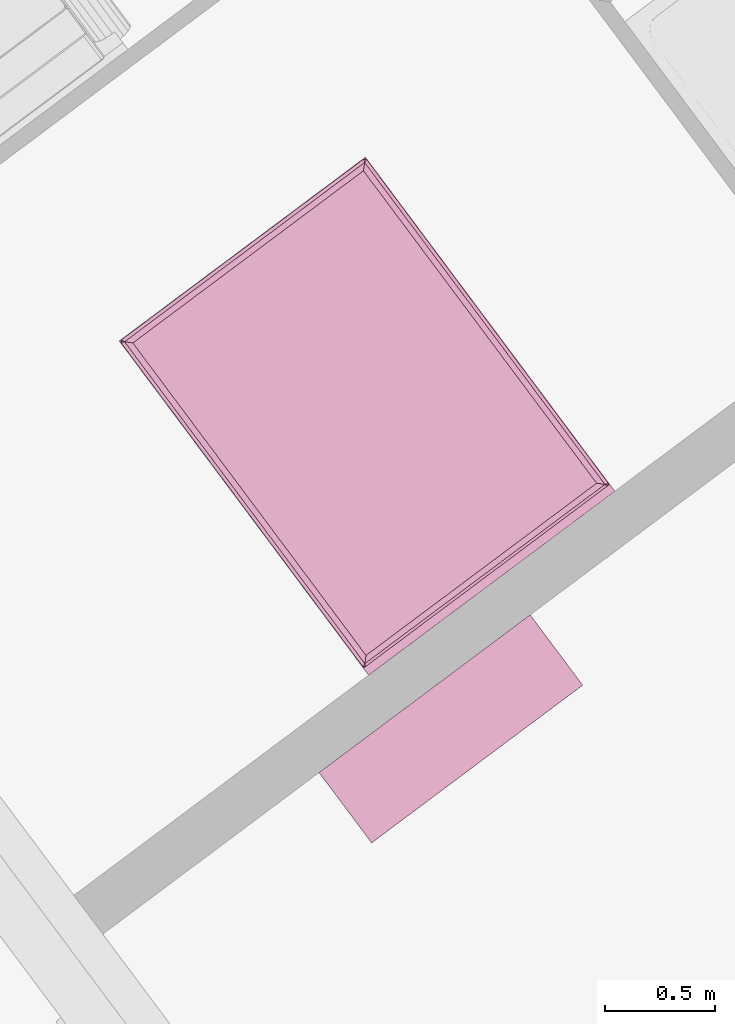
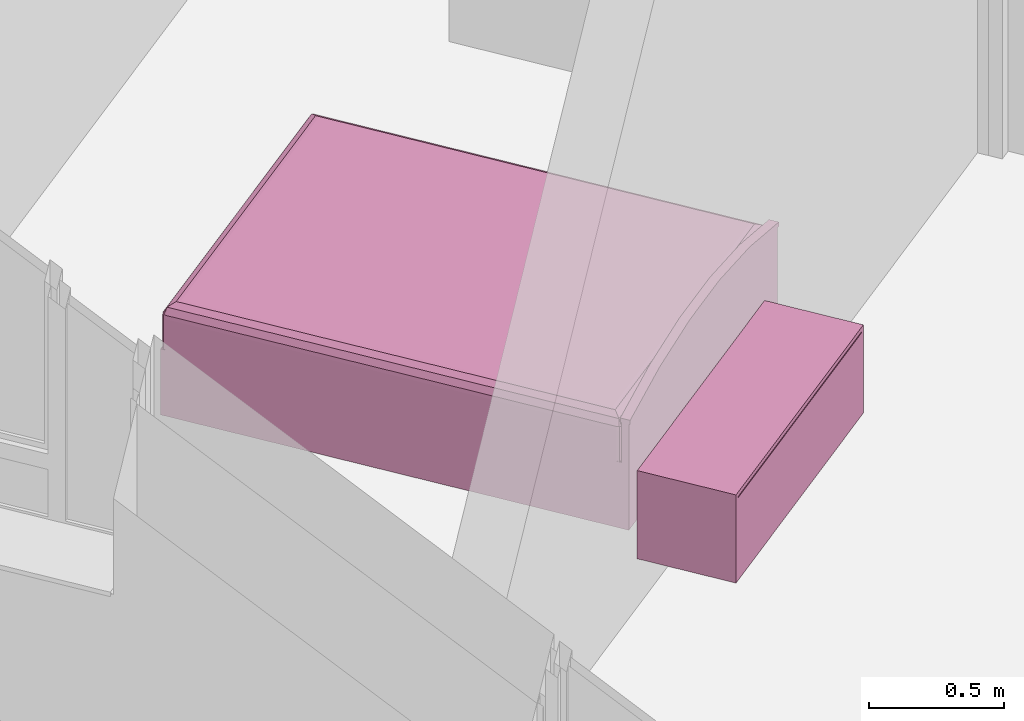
# One storey, part 95 of 121: 2 furnishings.
"""IFC2X3 building model written with IfcOpenShell, lengths in metres."""

from ifc_helpers import new_model, entity, si_unit, converted_unit, derived_unit, money_unit, direction, frame, origin_with_axes, place, context, subcontext, project, spatial, open_shell, faceted_brep, surface_model, source, transform, mapped, type_object, element, save


model = new_model("IFC2X3")

# Units and contexts
model_context = context("Model", 3, precision=1e-05, world=origin_with_axes(), true_north=direction((0.0, 1.0)))
body_context = subcontext(model_context, "Body", "Model", "MODEL_VIEW")
ifc_project = project(units=[si_unit("LENGTHUNIT", "METRE"), si_unit("AREAUNIT", "SQUARE_METRE"), si_unit("VOLUMEUNIT", "CUBIC_METRE"), converted_unit("PLANEANGLEUNIT", "DEGREE", entity("IfcPlaneAngleMeasure", 0.0174532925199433), si_unit("PLANEANGLEUNIT", "RADIAN"), dimensions=[0, 0, 0, 0, 0, 0, 0]), money_unit("CHF"), converted_unit("TIMEUNIT", "Year", entity("IfcTimeMeasure", 31557600.0), si_unit("TIMEUNIT", "SECOND"), dimensions=[0, 0, 1, 0, 0, 0, 0]), si_unit("MASSUNIT", "GRAM", prefix="KILO"), si_unit("THERMODYNAMICTEMPERATUREUNIT", "DEGREE_CELSIUS"), si_unit("LUMINOUSINTENSITYUNIT", "LUMEN"), si_unit("ENERGYUNIT", "JOULE", prefix="MEGA"), derived_unit("THERMALCONDUCTANCEUNIT", [(si_unit("POWERUNIT", "WATT"), 1), (si_unit("LENGTHUNIT", "METRE"), -1), (si_unit("THERMODYNAMICTEMPERATUREUNIT", "KELVIN"), -1)]), derived_unit("SPECIFICHEATCAPACITYUNIT", [(si_unit("ENERGYUNIT", "JOULE"), 1), (si_unit("MASSUNIT", "GRAM", prefix="KILO"), -1), (si_unit("THERMODYNAMICTEMPERATUREUNIT", "KELVIN"), -1)]), derived_unit("MASSDENSITYUNIT", [(si_unit("MASSUNIT", "GRAM", prefix="KILO"), 1), (si_unit("VOLUMEUNIT", "CUBIC_METRE"), -1)])], contexts=[model_context])

# Site, building, storey
site_placement = place(None, origin_with_axes())
site = spatial("IfcSite", under=ifc_project, at=site_placement, Name="Site", CompositionType="ELEMENT")
building_placement = place(site_placement, origin_with_axes())
building = spatial("IfcBuilding", under=site, at=building_placement, Name="Bâtiment", CompositionType="ELEMENT")
storey_placement = place(building_placement, frame((0.0, 0.0, 2.75), z_axis=(0.0, 0.0, 1.0), x_axis=(1.0, 0.0, 0.0)))
storey = spatial("IfcBuildingStorey", under=building, at=storey_placement, Name="Etage 1", CompositionType="ELEMENT", Elevation=2.75)

# Furnishings
furnishing_element_type_1 = type_object("IfcFurnishingElementType", Name="Meuble à plans 27")
shared_shape_1 = source(origin_with_axes(), body_context, "Body", "SurfaceModel", [
    surface_model("IfcShellBasedSurfaceModel", [(-1.18, 0.02, 0.0), (-1.18, 0.4, 0.0), (-0.02, 0.4, 0.0), (-0.02, 0.02, 0.0)], [open_shell([[[0, 1, 2, 3]]])]),
    faceted_brep([(0.0, 0.4, 0.0), (0.0, 0.0, 0.0), (-1.2, 0.0, 0.0), (-1.2, 0.4, 0.0), (0.0, 0.4, 0.4), (0.0, 0.0, 0.4), (-1.2, 0.0, 0.4), (-0.02, 0.0, 0.02), (-1.18, 0.0, 0.02), (-1.18, 0.0, 0.38), (-0.02, 0.0, 0.38), (-1.2, 0.4, 0.4), (-0.02, 0.4, 0.01999999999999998), (-0.02, 0.4, 0.38), (-1.18, 0.4, 0.38), (-1.18, 0.4, 0.01999999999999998)], [[[0, 1, 2, 3]], [[4, 5, 1, 0]], [[1, 5, 6, 2], [7, 8, 9, 10]], [[3, 2, 6, 11]], [[0, 3, 11, 4], [12, 13, 14, 15]], [[11, 6, 5, 4]], [[15, 8, 7, 12]], [[14, 9, 8, 15]], [[13, 10, 9, 14]], [[12, 7, 10, 13]]]),
    faceted_brep([(-1.18, 0.4, 0.01999999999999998), (-1.18, 0.4, 0.38), (-0.02, 0.4, 0.38), (-0.02, 0.4, 0.01999999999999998), (-1.18, 0.38, 0.01999999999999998), (-1.18, 0.3800000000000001, 0.38), (-0.02, 0.3800000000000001, 0.38), (-0.02, 0.38, 0.01999999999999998)], [[[0, 1, 2, 3]], [[0, 4, 5, 1]], [[1, 5, 6, 2]], [[2, 6, 7, 3]], [[3, 7, 4, 0]], [[7, 6, 5, 4]]]),
    faceted_brep([(-1.18, 0.0, 0.02), (-1.18, 0.38, 0.02), (-0.02, 0.38, 0.02), (-0.02, 0.0, 0.02), (-1.18, 0.0, 0.3750000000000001), (-1.18, 0.38, 0.3750000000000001), (-0.02, 0.38, 0.3750000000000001), (-0.02, 0.0, 0.3750000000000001)], [[[0, 1, 2, 3]], [[0, 4, 5, 1]], [[1, 5, 6, 2]], [[2, 6, 7, 3]], [[3, 7, 4, 0]], [[7, 6, 5, 4]]]),
])
furnishing_1_placement = place(storey_placement, frame((9534.874061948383, -1080.804691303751, 57.92018680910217), z_axis=(0.0, 0.0, 1.0), x_axis=(0.8011628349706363, 0.5984464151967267, 0.0)))
element("IfcFurnishingElement", 1, at=furnishing_1_placement, inside=storey, type_object=furnishing_element_type_1, Name="Obj.-376", context=body_context, shape_type="MappedRepresentation", body=[
    mapped(shared_shape_1, transform((0.0, 0.0, 0.0))),
])
furnishing_element_type_2 = type_object("IfcFurnishingElementType", Name="Lit double 01")
shared_shape_2 = source(origin_with_axes(), body_context, "Body", "Brep", [
    faceted_brep([(0.0, 1.895, 0.0), (0.0, 1.865, 0.0), (-1.4, 1.865, 0.0), (-1.4, 1.895, 0.0), (0.0, 1.895, 0.48), (0.0, 1.865, 0.48), (-0.276362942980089, 1.865, 0.5438448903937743), (-0.558179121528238, 1.865, 0.5759741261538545), (-0.8418208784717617, 1.865, 0.5759741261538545), (-1.123637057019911, 1.865, 0.5438448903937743), (-1.4, 1.865, 0.48), (-1.4, 1.865, 0.4799), (-1.4, 1.895, 0.4799), (-1.4, 1.895, 0.48), (-1.123637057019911, 1.895, 0.5438448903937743), (-0.8418208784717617, 1.895, 0.5759741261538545), (-0.558179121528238, 1.895, 0.5759741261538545), (-0.276362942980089, 1.895, 0.5438448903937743)], [[[0, 1, 2, 3]], [[4, 5, 1, 0]], [[1, 5, 6, 7, 8, 9, 10, 11, 2]], [[3, 2, 11, 12]], [[0, 3, 12, 13, 14, 15, 16, 17, 4]], [[17, 6, 5, 4]], [[16, 7, 6, 17]], [[15, 8, 7, 16]], [[14, 9, 8, 15]], [[13, 10, 9, 14]], [[12, 11, 10, 13]]]),
    faceted_brep([(-1.4, 1.9, 0.48), (-1.4, 1.86, 0.48), (-1.399999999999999, 1.86, 0.4999999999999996), (-1.399999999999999, 1.9, 0.4999999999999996), (-1.123637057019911, 1.9, 0.5438448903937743), (-1.123637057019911, 1.86, 0.5438448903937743), (-0.8418208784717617, 1.86, 0.5759741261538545), (-0.558179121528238, 1.86, 0.5759741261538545), (-0.276362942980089, 1.86, 0.5438448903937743), (0.0, 1.86, 0.48), (0.0, 1.86, 0.4999), (0.0, 1.86, 0.5), (-0.276362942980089, 1.86, 0.5638448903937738), (-0.5581791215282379, 1.86, 0.5959741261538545), (-0.8418208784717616, 1.86, 0.5959741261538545), (-1.123637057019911, 1.86, 0.5638448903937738), (-1.123637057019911, 1.9, 0.5638448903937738), (-0.8418208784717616, 1.9, 0.5959741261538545), (-0.5581791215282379, 1.9, 0.5959741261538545), (-0.276362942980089, 1.9, 0.5638448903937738), (0.0, 1.9, 0.5), (0.0, 1.9, 0.4999), (0.0, 1.9, 0.48), (-0.276362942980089, 1.9, 0.5438448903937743), (-0.558179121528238, 1.9, 0.5759741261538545), (-0.8418208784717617, 1.9, 0.5759741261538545)], [[[0, 1, 2, 3]], [[4, 5, 1, 0]], [[1, 5, 6, 7, 8, 9, 10, 11, 12, 13, 14, 15, 2]], [[3, 2, 15, 16]], [[0, 3, 16, 17, 18, 19, 20, 21, 22, 23, 24, 25, 4]], [[25, 6, 5, 4]], [[24, 7, 6, 25]], [[23, 8, 7, 24]], [[22, 9, 8, 23]], [[21, 10, 9, 22]], [[20, 11, 10, 21]], [[19, 12, 11, 20]], [[18, 13, 12, 19]], [[17, 14, 13, 18]], [[16, 15, 14, 17]]]),
    faceted_brep([(-1.4, 0.0, 0.0), (-1.4, 1.865, 0.0), (0.0, 1.865, 0.0), (0.0, 0.0, 0.0), (-1.4, 0.0, 0.3), (-1.4, 1.865, 0.3), (0.0, 1.865, 0.3), (0.0, 0.0, 0.3)], [[[0, 1, 2, 3]], [[0, 4, 5, 1]], [[1, 5, 6, 2]], [[2, 6, 7, 3]], [[3, 7, 4, 0]], [[7, 6, 5, 4]]]),
    faceted_brep([(0.0, 0.02, 0.43), (-0.002679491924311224, 0.01, 0.43), (-0.009999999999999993, 0.002679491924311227, 0.43), (-0.01999999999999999, 0.0, 0.43), (-1.38, 0.0, 0.43), (-1.39, 0.002679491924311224, 0.43), (-1.397320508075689, 0.009999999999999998, 0.43), (-1.4, 0.02, 0.43), (-1.4, 1.845, 0.43), (-1.397320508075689, 1.855, 0.43), (-1.39, 1.862320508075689, 0.43), (-1.38, 1.865, 0.43), (-0.02, 1.865, 0.43), (-0.009999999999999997, 1.862320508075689, 0.43), (-0.002679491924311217, 1.855, 0.43), (0.0, 1.845, 0.43), (3.895163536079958e-10, 0.02000000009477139, 0.44), (-0.002679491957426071, 0.0100000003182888, 0.44), (-0.0100000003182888, 0.002679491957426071, 0.44), (-0.02000000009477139, -3.895163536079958e-10, 0.44), (-1.380000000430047, -3.895163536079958e-10, 0.44), (-1.39000000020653, 0.002679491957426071, 0.44), (-1.39732050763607, 0.0100000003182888, 0.44), (-1.399999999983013, 0.02000000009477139, 0.44), (-1.399999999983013, 1.845000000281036, 0.44), (-1.39732050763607, 1.855000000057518, 0.44), (-1.39000000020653, 1.862320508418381, 0.44), (-1.380000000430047, 1.864999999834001, 0.44), (-0.02000000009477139, 1.864999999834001, 0.44), (-0.0100000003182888, 1.862320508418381, 0.44), (-0.002679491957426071, 1.855000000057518, 0.44), (3.895163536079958e-10, 1.845000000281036, 0.44), (-0.002044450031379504, 0.02026915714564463, 0.4555291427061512), (-0.004512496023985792, 0.01105828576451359, 0.4555291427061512), (-0.01105828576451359, 0.004512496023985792, 0.4555291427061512), (-0.02026915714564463, 0.002044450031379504, 0.4555291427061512), (-1.379730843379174, 0.002044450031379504, 0.4555291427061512), (-1.388941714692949, 0.004512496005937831, 0.4555291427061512), (-1.395487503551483, 0.01105828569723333, 0.4555291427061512), (-1.397955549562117, 0.02026915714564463, 0.4555291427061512), (-1.397955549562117, 1.844730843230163, 0.4555291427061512), (-1.395487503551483, 1.853941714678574, 0.4555291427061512), (-1.388941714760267, 1.860487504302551, 0.4555291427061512), (-1.379730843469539, 1.862955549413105, 0.4555291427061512), (-0.02026915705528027, 1.862955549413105, 0.4555291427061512), (-0.01105828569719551, 1.860487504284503, 0.4555291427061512), (-0.004512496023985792, 1.853941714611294, 0.4555291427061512), (-0.002044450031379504, 1.844730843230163, 0.4555291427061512), (-0.01757359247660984, 0.02231360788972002, 0.4824264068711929), (-0.01843554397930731, 0.01909676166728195, 0.4824264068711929), (-0.01909676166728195, 0.01843554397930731, 0.4824264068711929), (-0.02231360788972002, 0.01757359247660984, 0.4824264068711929), (-1.377686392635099, 0.01757359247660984, 0.4824264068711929), (-1.380903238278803, 0.01843554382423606, 0.4824264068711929), (-1.381564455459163, 0.01909676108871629, 0.4824264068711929), (-1.382426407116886, 0.02231360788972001, 0.4824264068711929), (-1.382426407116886, 1.842686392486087, 0.4824264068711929), (-1.381564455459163, 1.845903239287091, 0.4824264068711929), (-1.380903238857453, 1.846564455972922, 0.4824264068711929), (-1.377686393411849, 1.847426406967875, 0.4824264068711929), (-0.02231360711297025, 1.847426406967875, 0.4824264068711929), (-0.01909676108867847, 1.846564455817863, 0.4824264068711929), (-0.01843554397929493, 1.845903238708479, 0.4824264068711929), (-0.01757359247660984, 1.842686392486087, 0.4824264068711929), (-0.02303225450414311, 0.02303225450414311, 0.4855779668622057), (-0.02000000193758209, 0.02000000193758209, 0.4834338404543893), (-0.04447085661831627, 0.04447085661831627, 0.4979555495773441), (-1.35552914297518, 0.04447085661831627, 0.4979555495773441), (-1.376967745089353, 0.02303225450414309, 0.4855779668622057), (-1.379999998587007, 0.02000000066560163, 0.4834338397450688), (-1.35552914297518, 1.820529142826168, 0.4979555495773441), (-1.376967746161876, 1.841967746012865, 0.4855779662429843), (-1.380000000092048, 1.845000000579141, 0.4834338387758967), (-0.04447085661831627, 1.820529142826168, 0.4979555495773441), (-0.02303225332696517, 1.841967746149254, 0.48557796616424), (-0.02000000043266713, 1.844999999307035, 0.4834338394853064), (-0.05999999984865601, 0.05999999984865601, 0.5000000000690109), (-1.33999999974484, 0.05999999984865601, 0.5000000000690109), (-1.33999999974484, 1.804999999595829, 0.5000000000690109), (-0.05999999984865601, 1.804999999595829, 0.5000000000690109)], [[[0, 1, 2, 3, 4, 5, 6, 7, 8, 9, 10, 11, 12, 13, 14, 15]], [[0, 16, 17, 1]], [[1, 17, 18, 2]], [[2, 18, 19, 3]], [[3, 19, 20, 4]], [[4, 20, 21, 5]], [[5, 21, 22, 6]], [[6, 22, 23, 7]], [[7, 23, 24, 8]], [[8, 24, 25, 9]], [[9, 25, 26, 10]], [[10, 26, 27, 11]], [[11, 27, 28, 12]], [[12, 28, 29, 13]], [[13, 29, 30, 14]], [[14, 30, 31, 15]], [[15, 31, 16, 0]], [[16, 32, 33, 17]], [[17, 33, 34, 18]], [[18, 34, 35, 19]], [[19, 35, 36, 20]], [[20, 36, 37, 21]], [[21, 37, 38, 22]], [[22, 38, 39, 23]], [[23, 39, 40, 24]], [[24, 40, 41, 25]], [[25, 41, 42, 26]], [[26, 42, 43, 27]], [[27, 43, 44, 28]], [[28, 44, 45, 29]], [[29, 45, 46, 30]], [[30, 46, 47, 31]], [[31, 47, 32, 16]], [[32, 48, 49, 33]], [[33, 49, 50, 34]], [[34, 50, 51, 35]], [[35, 51, 52, 36]], [[36, 52, 53, 37]], [[37, 53, 54, 38]], [[38, 54, 55, 39]], [[39, 55, 56, 40]], [[40, 56, 57, 41]], [[41, 57, 58, 42]], [[42, 58, 59, 43]], [[43, 59, 60, 44]], [[44, 60, 61, 45]], [[45, 61, 62, 46]], [[46, 62, 63, 47]], [[47, 63, 48, 32]], [[48, 64, 65, 49]], [[49, 65, 50]], [[50, 65, 64, 51]], [[51, 64, 66, 67, 68, 52]], [[52, 68, 69, 53]], [[53, 69, 54]], [[54, 69, 68, 55]], [[55, 68, 67, 70, 71, 56]], [[56, 71, 72, 57]], [[57, 72, 58]], [[58, 72, 71, 59]], [[59, 71, 70, 73, 74, 60]], [[60, 74, 75, 61]], [[61, 75, 62]], [[62, 75, 74, 63]], [[63, 74, 73, 66, 64, 48]], [[66, 76, 77, 67]], [[67, 77, 78, 70]], [[70, 78, 79, 73]], [[73, 79, 76, 66]], [[78, 77, 76, 79]]]),
    faceted_brep([(-1.39000000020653, 0.002679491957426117, 0.2999999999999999), (-1.39, 0.002679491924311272, 0.3099999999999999), (-1.397320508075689, 0.01000000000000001, 0.3099999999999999), (-1.39732050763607, 0.01000000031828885, 0.2999999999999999), (-1.380000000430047, -3.895163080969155e-10, 0.2999999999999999), (-1.38, 0.0, 0.3099999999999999), (-1.4, 0.02000000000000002, 0.3099999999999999), (-0.02000000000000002, 0.0, 0.3099999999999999), (-0.01000000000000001, 0.002679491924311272, 0.3099999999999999), (-0.002679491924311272, 0.01000000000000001, 0.3099999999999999), (0.0, 0.02000000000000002, 0.3099999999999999), (0.0, 1.845, 0.3099999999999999), (-0.002679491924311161, 1.855, 0.3099999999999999), (-0.01000000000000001, 1.862320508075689, 0.3099999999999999), (-0.02000000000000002, 1.865, 0.3099999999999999), (-1.38, 1.865, 0.3099999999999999), (-1.39, 1.862320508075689, 0.3099999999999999), (-1.397320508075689, 1.855, 0.3099999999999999), (-1.4, 1.845, 0.3099999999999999), (-1.399999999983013, 0.02000000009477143, 0.2999999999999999), (-1.399999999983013, 1.845000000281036, 0.2999999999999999), (-1.39732050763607, 1.855000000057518, 0.2999999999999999), (-1.39000000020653, 1.862320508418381, 0.2999999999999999), (-1.380000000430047, 1.864999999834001, 0.2999999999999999), (-0.02000000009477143, 1.864999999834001, 0.2999999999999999), (-0.01000000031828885, 1.862320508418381, 0.2999999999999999), (-0.002679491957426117, 1.855000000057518, 0.2999999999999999), (3.895163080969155e-10, 1.845000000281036, 0.2999999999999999), (3.895163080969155e-10, 0.02000000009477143, 0.2999999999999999), (-0.002679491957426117, 0.01000000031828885, 0.2999999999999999), (-0.01000000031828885, 0.002679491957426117, 0.2999999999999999), (-0.02000000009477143, -3.895163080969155e-10, 0.2999999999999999)], [[[0, 1, 2, 3]], [[1, 0, 4, 5]], [[6, 2, 1, 5, 7, 8, 9, 10, 11, 12, 13, 14, 15, 16, 17, 18]], [[3, 2, 6, 19]], [[3, 19, 20, 21, 22, 23, 24, 25, 26, 27, 28, 29, 30, 31, 4, 0]], [[7, 5, 4, 31]], [[30, 8, 7, 31]], [[8, 30, 29, 9]], [[9, 29, 28, 10]], [[10, 28, 27, 11]], [[26, 12, 11, 27]], [[12, 26, 25, 13]], [[25, 24, 14, 13]], [[24, 23, 15, 14]], [[22, 16, 15, 23]], [[21, 17, 16, 22]], [[17, 21, 20, 18]], [[19, 6, 18, 20]]]),
    faceted_brep([(0.0, 0.02, 0.3099999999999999), (0.0, 0.02, 0.4299999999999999), (-0.002679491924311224, 0.01, 0.4299999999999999), (-0.002679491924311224, 0.01, 0.3099999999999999), (0.0, 1.845, 0.3099999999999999), (0.0, 1.845, 0.4299999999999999), (-0.002679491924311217, 1.855, 0.4299999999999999), (-0.009999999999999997, 1.862320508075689, 0.4299999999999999), (-0.02, 1.865, 0.4299999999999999), (-1.38, 1.865, 0.4299999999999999), (-1.39, 1.862320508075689, 0.4299999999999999), (-1.397320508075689, 1.855, 0.4299999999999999), (-1.4, 1.845, 0.4299999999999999), (-1.4, 0.02, 0.4299999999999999), (-1.397320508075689, 0.009999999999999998, 0.4299999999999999), (-1.39, 0.002679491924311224, 0.4299999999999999), (-1.38, 0.0, 0.4299999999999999), (-0.01999999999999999, 0.0, 0.4299999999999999), (-0.009999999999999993, 0.002679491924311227, 0.4299999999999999), (-0.009999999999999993, 0.002679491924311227, 0.3099999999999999), (-0.01999999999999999, 0.0, 0.3099999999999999), (-1.38, 0.0, 0.3099999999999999), (-1.39, 0.002679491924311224, 0.3099999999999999), (-1.397320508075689, 0.009999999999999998, 0.3099999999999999), (-1.4, 0.02, 0.3099999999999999), (-1.4, 1.845, 0.3099999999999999), (-1.397320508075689, 1.855, 0.3099999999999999), (-1.39, 1.862320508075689, 0.3099999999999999), (-1.38, 1.865, 0.3099999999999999), (-0.02, 1.865, 0.3099999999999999), (-0.009999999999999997, 1.862320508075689, 0.3099999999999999), (-0.002679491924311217, 1.855, 0.3099999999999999)], [[[0, 1, 2, 3]], [[4, 5, 1, 0]], [[1, 5, 6, 7, 8, 9, 10, 11, 12, 13, 14, 15, 16, 17, 18, 2]], [[3, 2, 18, 19]], [[0, 3, 19, 20, 21, 22, 23, 24, 25, 26, 27, 28, 29, 30, 31, 4]], [[31, 6, 5, 4]], [[30, 7, 6, 31]], [[29, 8, 7, 30]], [[28, 9, 8, 29]], [[27, 10, 9, 28]], [[26, 11, 10, 27]], [[25, 12, 11, 26]], [[24, 13, 12, 25]], [[23, 14, 13, 24]], [[22, 15, 14, 23]], [[21, 16, 15, 22]], [[20, 17, 16, 21]], [[19, 18, 17, 20]]]),
])
furnishing_2_placement = place(storey_placement, frame((9532.762520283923, -1079.236526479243, 57.7), z_axis=(0.0, 0.0, 1.0), x_axis=(-0.8013410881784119, -0.5982077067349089, 0.0)))
element("IfcFurnishingElement", 2, at=furnishing_2_placement, inside=storey, type_object=furnishing_element_type_2, Name="Obj.-002", context=body_context, shape_type="MappedRepresentation", body=[
    mapped(shared_shape_2, transform((0.0, 0.0, 0.0))),
])

save(model, "model.ifc")
